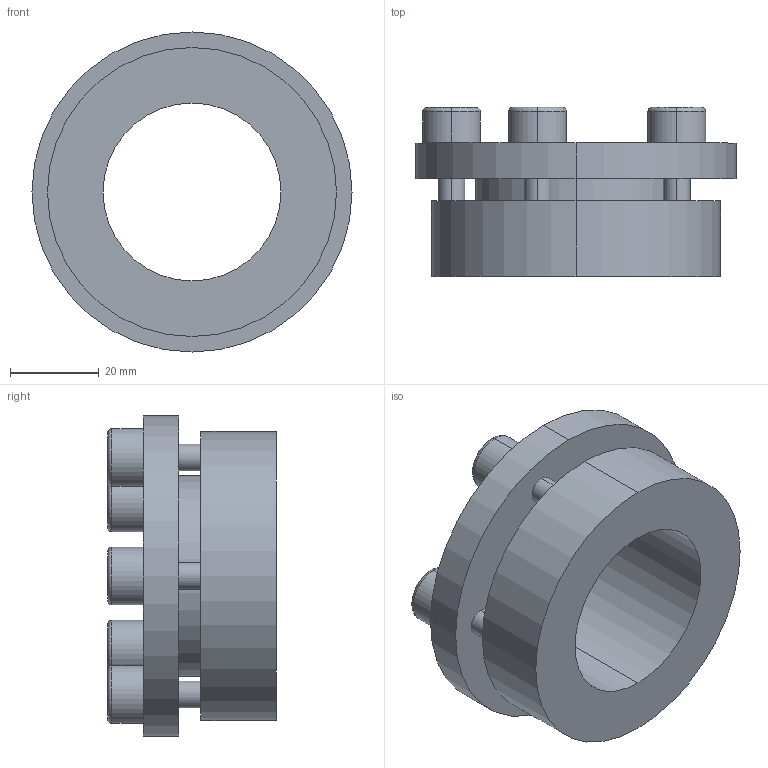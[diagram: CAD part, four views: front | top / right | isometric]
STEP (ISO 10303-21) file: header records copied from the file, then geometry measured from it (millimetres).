
FILE_DESCRIPTION (( 'STEP AP203' ), '1' );
FILE_NAME ('PL-H4 40-65.STEP', '2021-10-23T01:20:21', ( '' ), ( '' ), 'SwSTEP 2.0', 'SolidWorks 2018', '' );
FILE_SCHEMA (( 'CONFIG_CONTROL_DESIGN' ));
Length unit declared in the file: millimetre
Products named in the file (1): PL-H4 40-65
Bounding box: 72 x 38 x 72 mm (x, y, z)
Volume: 64586.6 mm3; surface area: 20991.2 mm2
Topology: 1 solids, 1 shells, 82 faces, 194 edges, 126 vertices
Faces by surface type: plane 44, cylinder 28, torus 10
Entity records: 2475 total; most frequent: DIRECTION 436, CARTESIAN_POINT 403, ORIENTED_EDGE 388, EDGE_CURVE 194, AXIS2_PLACEMENT_3D 159, VERTEX_POINT 126, LINE 118, VECTOR 118
